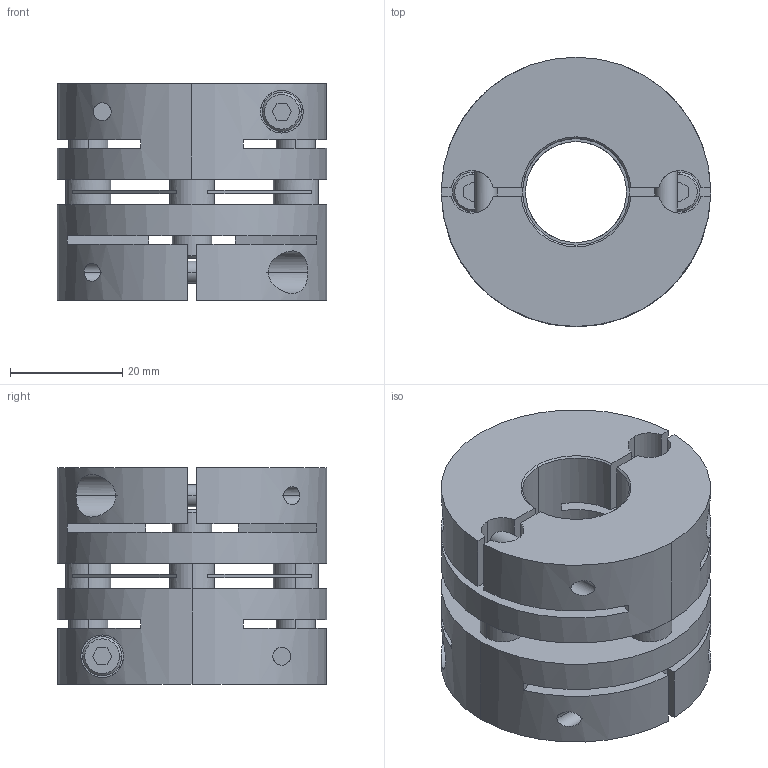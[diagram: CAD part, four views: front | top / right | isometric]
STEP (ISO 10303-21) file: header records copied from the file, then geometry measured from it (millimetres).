
FILE_DESCRIPTION((''),'2;1');
FILE_NAME('LAS-48C-18×19.stp','2015-10-14T15:47:18',(''),(''),'AutoCAD STEP 2000i','AutoCAD 2000i',', , ');
FILE_SCHEMA(('CONFIG_CONTROL_DESIGN'));
Length unit declared in the file: millimetre
Products named in the file (7): LAS-48C-19×19; 忣兜1; LA-4802-D19-1; LA-4802-D19; LA-4802-D12-1; LA-4802-D12; LAS48-ITA
Assembly tree (6 placements, depth 2):
  LAS-48C-19×19
    忣兜1
    LA-4802-D19-1
    LA-4802-D19
    LA-4802-D12-1
    LA-4802-D12
    LAS48-ITA
Bounding box: 48 x 48 x 38.6 mm (x, y, z)
Volume: 47433.9 mm3; surface area: 21873.8 mm2
Topology: 1 solids, 1 shells, 224 faces, 612 edges, 400 vertices
Faces by surface type: plane 112, cylinder 84, cone 28
Entity records: 8075 total; most frequent: CARTESIAN_POINT 2043, DIRECTION 1262, ORIENTED_EDGE 1224, EDGE_CURVE 612, AXIS2_PLACEMENT_3D 459, VERTEX_POINT 400, VECTOR 344, LINE 344
